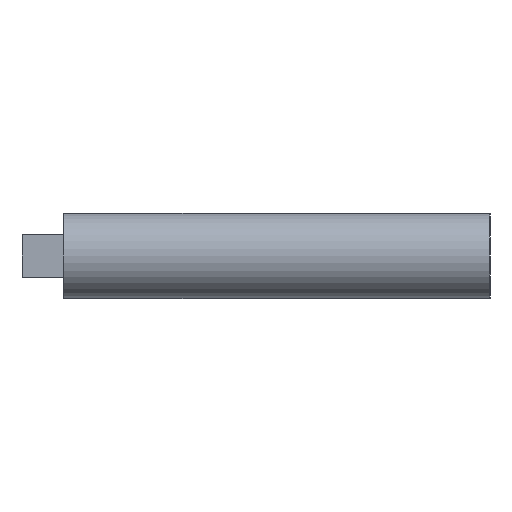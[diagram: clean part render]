
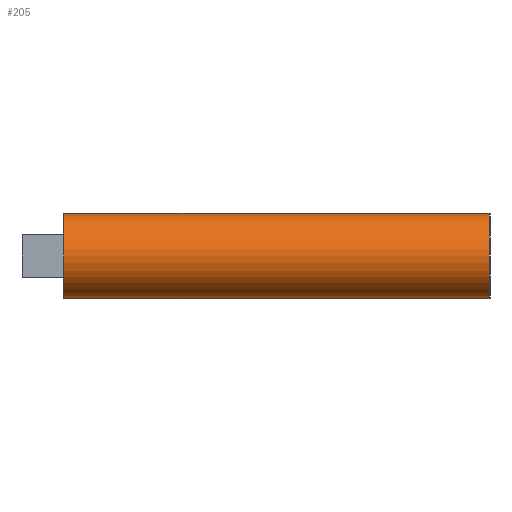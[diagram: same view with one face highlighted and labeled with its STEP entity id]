
A CAD part, front view. The second image highlights one B-rep face of the part: STEP entity #205.
In plain terms, the highlighted cylindrical face has radius 2 mm (diameter 4 mm), a full revolution.
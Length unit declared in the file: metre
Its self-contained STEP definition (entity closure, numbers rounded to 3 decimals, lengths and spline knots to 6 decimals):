
#109=ORIENTED_EDGE('',*,*,#137,.F.);
#110=ORIENTED_EDGE('',*,*,#136,.T.);
#111=ORIENTED_EDGE('',*,*,#134,.T.);
#134=EDGE_CURVE('',#151,#149,#157,.T.);
#136=EDGE_CURVE('',#149,#151,#158,.T.);
#137=EDGE_CURVE('',#154,#154,#159,.T.);
#149=VERTEX_POINT('',#326);
#151=VERTEX_POINT('',#334);
#154=VERTEX_POINT('',#350);
#157=CIRCLE('',#231,0.002);
#158=CIRCLE('',#234,0.002);
#159=CIRCLE('',#236,0.002);
#173=EDGE_LOOP('',(#109));
#174=EDGE_LOOP('',(#110,#111));
#189=FACE_BOUND('',#173,.T.);
#190=FACE_BOUND('',#174,.T.);
#193=CYLINDRICAL_SURFACE('',#235,0.002);
#205=ADVANCED_FACE('',(#189,#190),#193,.T.);
#231=AXIS2_PLACEMENT_3D('',#343,#281,#282);
#234=AXIS2_PLACEMENT_3D('',#347,#288,#289);
#235=AXIS2_PLACEMENT_3D('',#348,#290,#291);
#236=AXIS2_PLACEMENT_3D('',#349,#292,#293);
#281=DIRECTION('',(1.,0.,0.));
#282=DIRECTION('',(0.,1.,0.));
#288=DIRECTION('',(1.,0.,0.));
#289=DIRECTION('',(0.,1.,0.));
#290=DIRECTION('',(-1.,0.,0.));
#291=DIRECTION('',(0.,-1.,0.));
#292=DIRECTION('',(1.,0.,0.));
#293=DIRECTION('',(0.,1.,0.));
#326=CARTESIAN_POINT('',(-0.000032,-0.106533,0.065484));
#334=CARTESIAN_POINT('',(-0.000032,-0.106533,0.063484));
#343=CARTESIAN_POINT('',(-0.000032,-0.108266,0.064484));
#347=CARTESIAN_POINT('',(-0.000032,-0.108266,0.064484));
#348=CARTESIAN_POINT('',(0.019968,-0.108266,0.064484));
#349=CARTESIAN_POINT('',(0.019968,-0.108266,0.064484));
#350=CARTESIAN_POINT('',(0.019968,-0.106266,0.064484));
